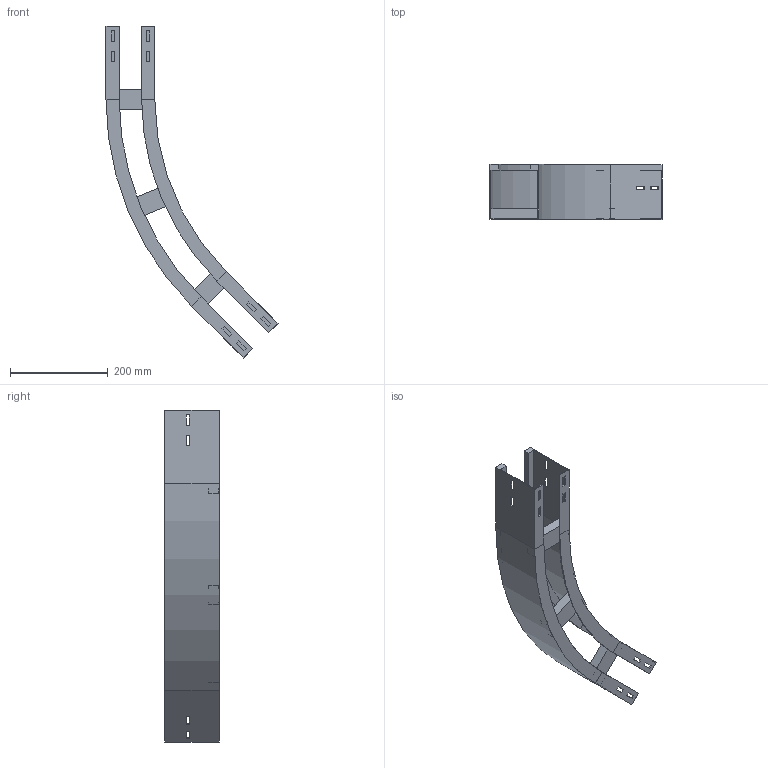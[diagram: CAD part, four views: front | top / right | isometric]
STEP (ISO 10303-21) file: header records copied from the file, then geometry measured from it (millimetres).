
FILE_DESCRIPTION (( 'STEP AP214' ), '1' );
FILE_NAME ('11B5J100.step', '2025-02-21T15:13:21', ( '' ), ( '' ), 'SwSTEP 2.0', 'SolidWorks 2023', '' );
FILE_SCHEMA (( 'AUTOMOTIVE_DESIGN' ));
Length unit declared in the file: millimetre
Products named in the file (4): 11B5J100; A2_LONGH.INTERNO 45°_H112.5_R500; A2_LONGH.ESTERNO 45°_H112.5_R500+100; TRAVERSINO_100
Assembly tree (5 placements, depth 2):
  11B5J100
    A2_LONGH.INTERNO 45°_H112.5_R500
    A2_LONGH.ESTERNO 45°_H112.5_R500+100
    TRAVERSINO_100  x3
Bounding box: 352.51 x 112.5 x 680.33 mm (x, y, z)
Volume: 912011 mm3; surface area: 493788.7 mm2
Topology: 5 solids, 5 shells, 134 faces, 340 edges, 216 vertices
Faces by surface type: plane 126, cylinder 8
Entity records: 3821 total; most frequent: CARTESIAN_POINT 646, ORIENTED_EDGE 632, DIRECTION 592, EDGE_CURVE 316, LINE 300, VECTOR 300, VERTEX_POINT 200, EDGE_LOOP 154
